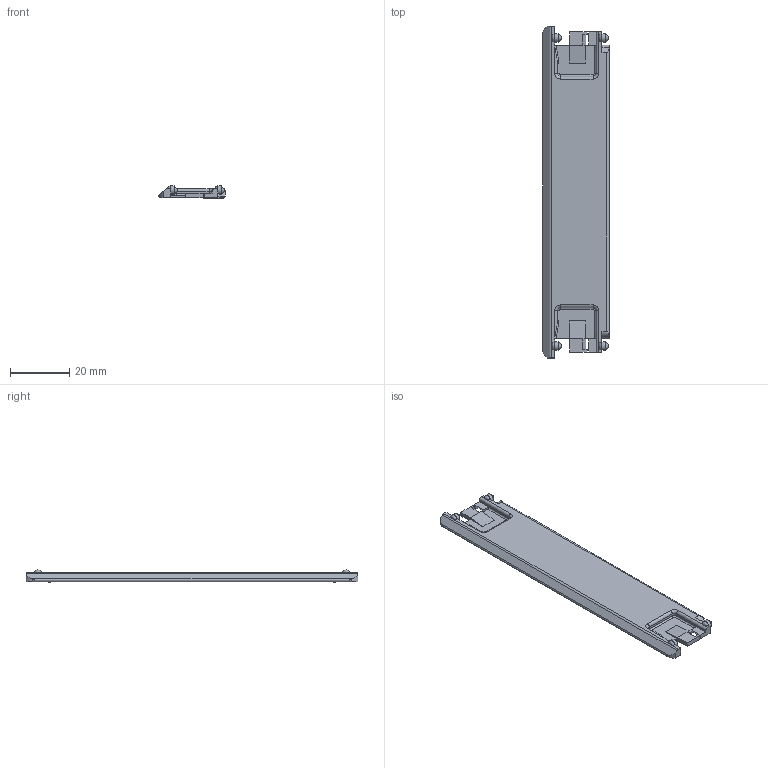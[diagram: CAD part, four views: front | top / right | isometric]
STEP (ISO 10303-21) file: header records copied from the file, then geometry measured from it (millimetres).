
FILE_DESCRIPTION((''),'2;1');
FILE_NAME('C:\Uebbing\PARAMETERKETTEN\KOLIBRI\Kol_30_125_1\Kol_30_125_0_Klappsteg.stp','2011-11-02T12:40:33',('Uebbing'),(''),'Autodesk Inventor 10','Autodesk Inventor 10','');
FILE_SCHEMA(('AUTOMOTIVE_DESIGN { 1 0 10303 214 1 1 1 1 }'));
Length unit declared in the file: millimetre
Products named in the file (1): Kol_30_125_0_Klappsteg
Bounding box: 22.5 x 112 x 4.05 mm (x, y, z)
Volume: 6066.7 mm3; surface area: 5491.4 mm2
Topology: 1 solids, 1 shells, 148 faces, 422 edges, 276 vertices
Faces by surface type: plane 82, cylinder 50, bspline 8, cone 4, torus 4
Full cylindrical faces by diameter (mm): 2.8 x4
Entity records: 5358 total; most frequent: CARTESIAN_POINT 1524, ORIENTED_EDGE 812, DIRECTION 782, EDGE_CURVE 406, VECTOR 276, LINE 276, VERTEX_POINT 268, AXIS2_PLACEMENT_3D 253
